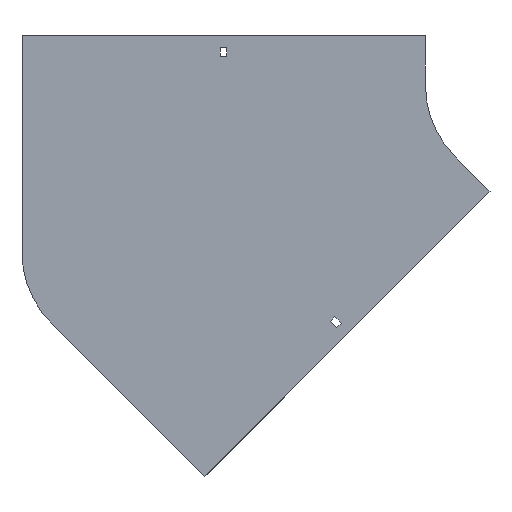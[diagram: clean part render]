
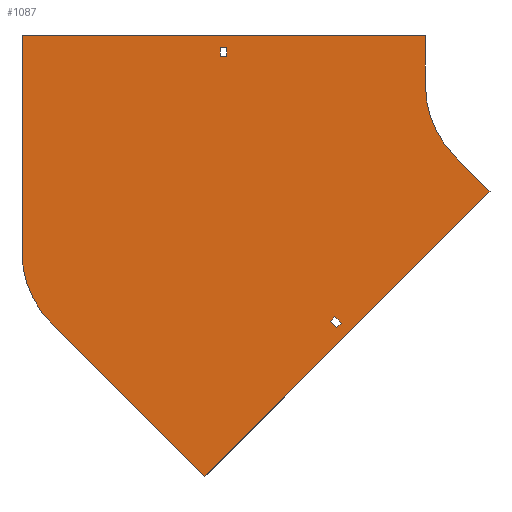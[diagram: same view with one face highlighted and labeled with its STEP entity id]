
A CAD part, front view. The second image highlights one B-rep face of the part: STEP entity #1087.
In plain terms, the highlighted planar face has unit normal (0, -1, 0).
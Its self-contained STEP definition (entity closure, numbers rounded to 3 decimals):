
#20 = CARTESIAN_POINT ( 'NONE',  ( -504., 0., 50. ) ) ;
#26 = CARTESIAN_POINT ( 'NONE',  ( -195.338, 0., -236.35 ) ) ;
#27 = ORIENTED_EDGE ( 'NONE', *, *, #1197, .T. ) ;
#28 = EDGE_CURVE ( 'NONE', #484, #1187, #551, .T. ) ;
#30 = ORIENTED_EDGE ( 'NONE', *, *, #1221, .F. ) ;
#37 = EDGE_LOOP ( 'NONE', ( #986, #30, #467, #474 ) ) ;
#49 = DIRECTION ( 'NONE',  ( 0.707, 0., 0.707 ) ) ;
#84 = VECTOR ( 'NONE', #636, 1000. ) ;
#103 = VECTOR ( 'NONE', #419, 1000. ) ;
#117 = CARTESIAN_POINT ( 'NONE',  ( -35.355, 0., -106.066 ) ) ;
#120 = CARTESIAN_POINT ( 'NONE',  ( -321.026, 0., -391.737 ) ) ;
#129 = EDGE_LOOP ( 'NONE', ( #27, #923, #946, #157 ) ) ;
#136 = CIRCLE ( 'NONE', #931, 100. ) ;
#157 = ORIENTED_EDGE ( 'NONE', *, *, #408, .T. ) ;
#161 = ORIENTED_EDGE ( 'NONE', *, *, #525, .F. ) ;
#165 = EDGE_CURVE ( 'NONE', #203, #1052, #1147, .T. ) ;
#170 = CARTESIAN_POINT ( 'NONE',  ( -305.25, 0., 29. ) ) ;
#180 = VERTEX_POINT ( 'NONE', #1314 ) ;
#202 = CARTESIAN_POINT ( 'NONE',  ( -504., 0., 50. ) ) ;
#203 = VERTEX_POINT ( 'NONE', #1261 ) ;
#205 = CARTESIAN_POINT ( 'NONE',  ( -404., 0., -167.342 ) ) ;
#218 = LINE ( 'NONE', #331, #1391 ) ;
#225 = VERTEX_POINT ( 'NONE', #1030 ) ;
#226 = EDGE_LOOP ( 'NONE', ( #249, #987, #831, #845, #161, #1296, #1215, #514 ) ) ;
#229 = CARTESIAN_POINT ( 'NONE',  ( -35.355, 0., -106.066 ) ) ;
#249 = ORIENTED_EDGE ( 'NONE', *, *, #28, .F. ) ;
#254 = CARTESIAN_POINT ( 'NONE',  ( -298.75, 0., 29. ) ) ;
#268 = DIRECTION ( 'NONE',  ( 1., 0., 0. ) ) ;
#272 = VERTEX_POINT ( 'NONE', #1076 ) ;
#273 = LINE ( 'NONE', #389, #720 ) ;
#294 = DIRECTION ( 'NONE',  ( 0., 0., -1. ) ) ;
#305 = VERTEX_POINT ( 'NONE', #989 ) ;
#307 = VERTEX_POINT ( 'NONE', #229 ) ;
#318 = EDGE_CURVE ( 'NONE', #272, #203, #1400, .T. ) ;
#326 = DIRECTION ( 'NONE',  ( -0.707, 0., 0.707 ) ) ;
#331 = CARTESIAN_POINT ( 'NONE',  ( -305.25, 0., 29. ) ) ;
#334 = LINE ( 'NONE', #117, #382 ) ;
#359 = VERTEX_POINT ( 'NONE', #254 ) ;
#374 = VERTEX_POINT ( 'NONE', #797 ) ;
#382 = VECTOR ( 'NONE', #1079, 1000. ) ;
#389 = CARTESIAN_POINT ( 'NONE',  ( -100., 0., 50. ) ) ;
#408 = EDGE_CURVE ( 'NONE', #359, #1062, #713, .T. ) ;
#419 = DIRECTION ( 'NONE',  ( -0.707, 0., -0.707 ) ) ;
#426 = LINE ( 'NONE', #1077, #103 ) ;
#442 = DIRECTION ( 'NONE',  ( 0., -1., 0. ) ) ;
#452 = DIRECTION ( 'NONE',  ( 1., 0., 0. ) ) ;
#463 = CARTESIAN_POINT ( 'NONE',  ( -188.974, 0., -242.714 ) ) ;
#467 = ORIENTED_EDGE ( 'NONE', *, *, #906, .F. ) ;
#474 = ORIENTED_EDGE ( 'NONE', *, *, #165, .F. ) ;
#476 = DIRECTION ( 'NONE',  ( 0., -1., 0. ) ) ;
#484 = VERTEX_POINT ( 'NONE', #202 ) ;
#492 = EDGE_CURVE ( 'NONE', #225, #374, #1191, .T. ) ;
#514 = ORIENTED_EDGE ( 'NONE', *, *, #711, .F. ) ;
#523 = VERTEX_POINT ( 'NONE', #1406 ) ;
#525 = EDGE_CURVE ( 'NONE', #307, #841, #334, .T. ) ;
#548 = LINE ( 'NONE', #120, #612 ) ;
#551 = LINE ( 'NONE', #20, #644 ) ;
#558 = DIRECTION ( 'NONE',  ( 0., 0., -1. ) ) ;
#564 = EDGE_CURVE ( 'NONE', #900, #523, #136, .T. ) ;
#569 = LINE ( 'NONE', #26, #1392 ) ;
#582 = EDGE_CURVE ( 'NONE', #778, #305, #604, .T. ) ;
#583 = VECTOR ( 'NONE', #294, 1000. ) ;
#604 = LINE ( 'NONE', #1235, #1251 ) ;
#606 = DIRECTION ( 'NONE',  ( -1., 0., 0. ) ) ;
#612 = VECTOR ( 'NONE', #1172, 1000. ) ;
#632 = CARTESIAN_POINT ( 'NONE',  ( -190.742, 0., -231.754 ) ) ;
#636 = DIRECTION ( 'NONE',  ( 0.707, 0., -0.707 ) ) ;
#638 = DIRECTION ( 'NONE',  ( 0., 1., 0. ) ) ;
#644 = VECTOR ( 'NONE', #452, 1000. ) ;
#652 = DIRECTION ( 'NONE',  ( 0., 0., 1. ) ) ;
#672 = CARTESIAN_POINT ( 'NONE',  ( 0., 0., 0. ) ) ;
#690 = VECTOR ( 'NONE', #606, 1000. ) ;
#711 = EDGE_CURVE ( 'NONE', #1187, #900, #273, .T. ) ;
#713 = LINE ( 'NONE', #170, #690 ) ;
#716 = FACE_OUTER_BOUND ( 'NONE', #226, .T. ) ;
#720 = VECTOR ( 'NONE', #916, 1000. ) ;
#735 = CARTESIAN_POINT ( 'NONE',  ( -70.711, 0., -70.711 ) ) ;
#756 = CARTESIAN_POINT ( 'NONE',  ( -100., 0., 0. ) ) ;
#758 = EDGE_CURVE ( 'NONE', #374, #484, #1320, .T. ) ;
#778 = VERTEX_POINT ( 'NONE', #885 ) ;
#785 = FACE_BOUND ( 'NONE', #37, .T. ) ;
#792 = PLANE ( 'NONE',  #1054 ) ;
#797 = CARTESIAN_POINT ( 'NONE',  ( -504., 0., -167.342 ) ) ;
#799 = FACE_BOUND ( 'NONE', #129, .T. ) ;
#801 = CARTESIAN_POINT ( 'NONE',  ( -190.742, 0., -231.754 ) ) ;
#831 = ORIENTED_EDGE ( 'NONE', *, *, #492, .F. ) ;
#841 = VERTEX_POINT ( 'NONE', #1310 ) ;
#844 = VECTOR ( 'NONE', #326, 1000. ) ;
#845 = ORIENTED_EDGE ( 'NONE', *, *, #859, .F. ) ;
#859 = EDGE_CURVE ( 'NONE', #841, #225, #548, .T. ) ;
#876 = DIRECTION ( 'NONE',  ( 0., 0., 1. ) ) ;
#885 = CARTESIAN_POINT ( 'NONE',  ( -305.25, 0., 38. ) ) ;
#900 = VERTEX_POINT ( 'NONE', #756 ) ;
#906 = EDGE_CURVE ( 'NONE', #1052, #180, #426, .T. ) ;
#916 = DIRECTION ( 'NONE',  ( 0., 0., -1. ) ) ;
#923 = ORIENTED_EDGE ( 'NONE', *, *, #582, .T. ) ;
#931 = AXIS2_PLACEMENT_3D ( 'NONE', #672, #442, #558 ) ;
#946 = ORIENTED_EDGE ( 'NONE', *, *, #960, .T. ) ;
#960 = EDGE_CURVE ( 'NONE', #305, #359, #1254, .T. ) ;
#986 = ORIENTED_EDGE ( 'NONE', *, *, #318, .F. ) ;
#987 = ORIENTED_EDGE ( 'NONE', *, *, #758, .F. ) ;
#989 = CARTESIAN_POINT ( 'NONE',  ( -298.75, 0., 38. ) ) ;
#1030 = CARTESIAN_POINT ( 'NONE',  ( -474.711, 0., -238.053 ) ) ;
#1052 = VERTEX_POINT ( 'NONE', #632 ) ;
#1054 = AXIS2_PLACEMENT_3D ( 'NONE', #1338, #476, #1232 ) ;
#1058 = CARTESIAN_POINT ( 'NONE',  ( -305.25, 0., 29. ) ) ;
#1059 = DIRECTION ( 'NONE',  ( 0., 0., 1. ) ) ;
#1061 = EDGE_CURVE ( 'NONE', #523, #307, #1273, .T. ) ;
#1062 = VERTEX_POINT ( 'NONE', #1058 ) ;
#1076 = CARTESIAN_POINT ( 'NONE',  ( -188.974, 0., -242.714 ) ) ;
#1077 = CARTESIAN_POINT ( 'NONE',  ( -195.338, 0., -236.35 ) ) ;
#1079 = DIRECTION ( 'NONE',  ( -0.707, 0., -0.707 ) ) ;
#1087 = ADVANCED_FACE ( 'NONE', ( #799, #716, #785 ), #792, .T. ) ;
#1101 = CARTESIAN_POINT ( 'NONE',  ( -504., 0., -167.342 ) ) ;
#1147 = LINE ( 'NONE', #801, #844 ) ;
#1154 = CARTESIAN_POINT ( 'NONE',  ( -298.75, 0., 29. ) ) ;
#1172 = DIRECTION ( 'NONE',  ( -0.707, 0., 0.707 ) ) ;
#1187 = VERTEX_POINT ( 'NONE', #1305 ) ;
#1191 = CIRCLE ( 'NONE', #1269, 100. ) ;
#1197 = EDGE_CURVE ( 'NONE', #1062, #778, #218, .T. ) ;
#1215 = ORIENTED_EDGE ( 'NONE', *, *, #564, .F. ) ;
#1221 = EDGE_CURVE ( 'NONE', #180, #272, #569, .T. ) ;
#1226 = VECTOR ( 'NONE', #49, 1000. ) ;
#1232 = DIRECTION ( 'NONE',  ( 0., 0., -1. ) ) ;
#1235 = CARTESIAN_POINT ( 'NONE',  ( -305.25, 0., 38. ) ) ;
#1251 = VECTOR ( 'NONE', #268, 1000. ) ;
#1254 = LINE ( 'NONE', #1154, #583 ) ;
#1261 = CARTESIAN_POINT ( 'NONE',  ( -184.378, 0., -238.118 ) ) ;
#1269 = AXIS2_PLACEMENT_3D ( 'NONE', #205, #638, #1059 ) ;
#1273 = LINE ( 'NONE', #735, #84 ) ;
#1281 = VECTOR ( 'NONE', #876, 1000. ) ;
#1296 = ORIENTED_EDGE ( 'NONE', *, *, #1061, .F. ) ;
#1305 = CARTESIAN_POINT ( 'NONE',  ( -100., 0., 50. ) ) ;
#1310 = CARTESIAN_POINT ( 'NONE',  ( -321.026, 0., -391.737 ) ) ;
#1314 = CARTESIAN_POINT ( 'NONE',  ( -195.338, 0., -236.35 ) ) ;
#1320 = LINE ( 'NONE', #1101, #1281 ) ;
#1338 = CARTESIAN_POINT ( 'NONE',  ( 0., 0., 0. ) ) ;
#1391 = VECTOR ( 'NONE', #652, 1000. ) ;
#1392 = VECTOR ( 'NONE', #1397, 1000. ) ;
#1397 = DIRECTION ( 'NONE',  ( 0.707, 0., -0.707 ) ) ;
#1400 = LINE ( 'NONE', #463, #1226 ) ;
#1406 = CARTESIAN_POINT ( 'NONE',  ( -70.711, 0., -70.711 ) ) ;
